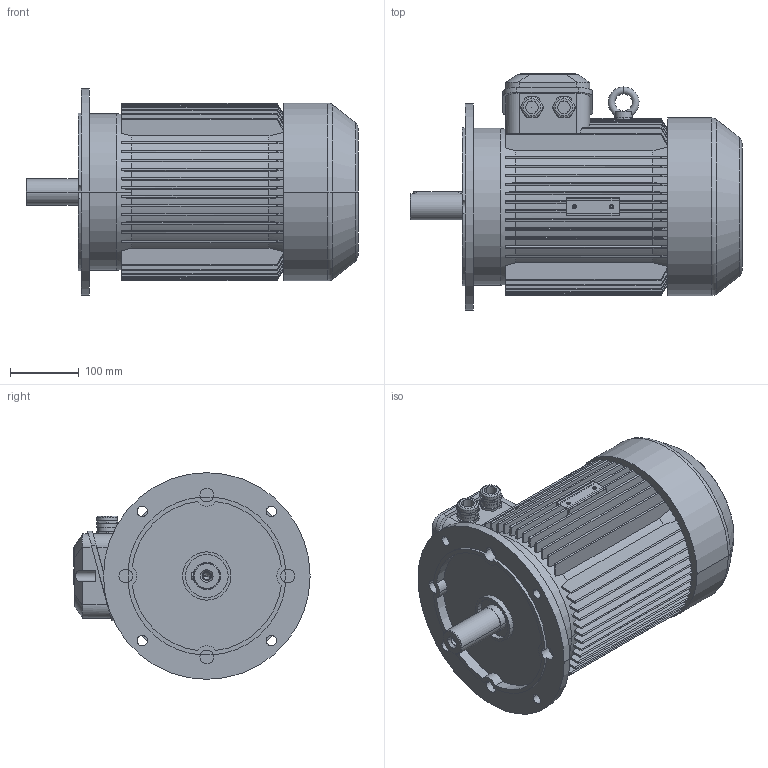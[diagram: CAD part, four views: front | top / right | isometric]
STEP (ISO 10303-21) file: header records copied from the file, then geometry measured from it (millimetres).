
FILE_DESCRIPTION (( 'STEP AP214' ), '1' );
FILE_NAME ('MAP132M6B IM3041 A300 FF265.STEP', '2021-03-08T10:47:29', ( '' ), ( '' ), 'SwSTEP 2.0', 'SolidWorks 2018', '' );
FILE_SCHEMA (( 'AUTOMOTIVE_DESIGN' ));
Length unit declared in the file: millimetre
Products named in the file (1): MAP132M6B IM3041 A300 FF265
Bounding box: 482 x 343 x 300 mm (x, y, z)
Volume: 17586110.8 mm3; surface area: 1229167.4 mm2
Topology: 1 solids, 6 shells, 848 faces, 2301 edges, 1509 vertices
Faces by surface type: plane 450, cylinder 235, cone 119, bspline 32, torus 12
Entity records: 31814 total; most frequent: CARTESIAN_POINT 10944, ORIENTED_EDGE 4598, DIRECTION 4019, EDGE_CURVE 2299, VERTEX_POINT 1509, AXIS2_PLACEMENT_3D 1387, LINE 1245, VECTOR 1245
